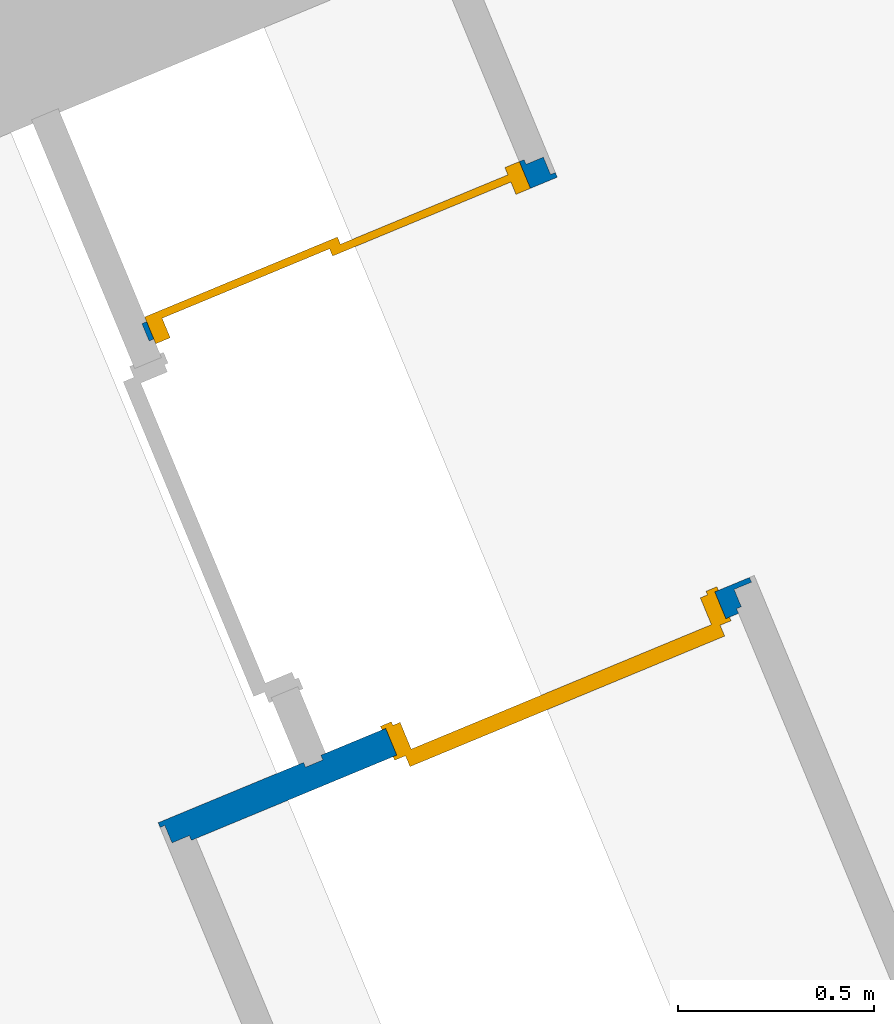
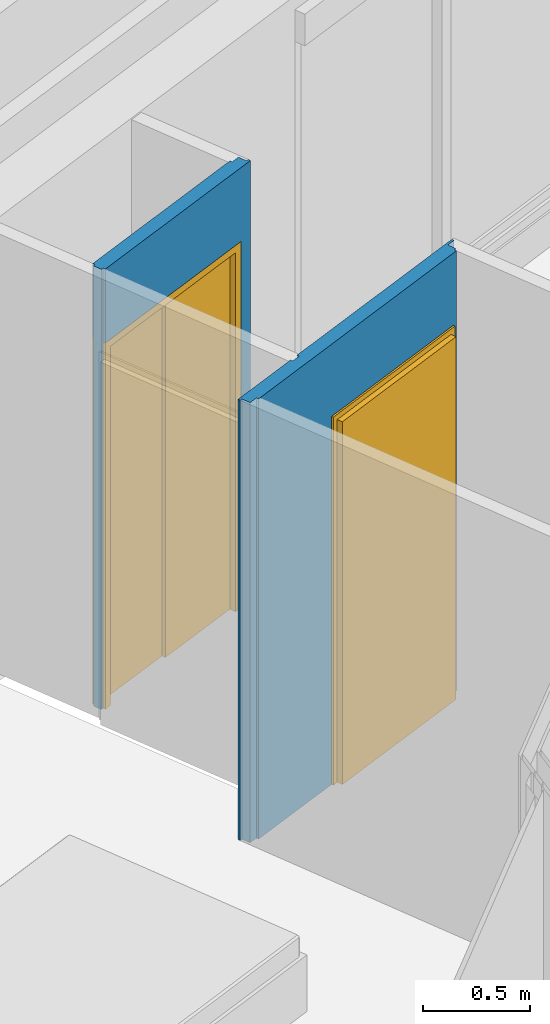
# One storey, part 13 of 119: 2 doors, 2 walls, 2 openings.
"""IFC2X3 building model written with IfcOpenShell, lengths in metres."""

from ifc_helpers import new_model, entity, si_unit, converted_unit, derived_unit, money_unit, direction, frame, origin_with_axes, place, context, subcontext, project, spatial, faceted_brep, source, transform, mapped, material, material_list, type_object, element, fill, save


model = new_model("IFC2X3")

# Units and contexts
model_context = context("Model", 3, precision=1e-05, world=origin_with_axes(), true_north=direction((0.0, 1.0)))
body_context = subcontext(model_context, "Body", "Model", "MODEL_VIEW")
ifc_project = project(units=[si_unit("LENGTHUNIT", "METRE"), si_unit("AREAUNIT", "SQUARE_METRE"), si_unit("VOLUMEUNIT", "CUBIC_METRE"), converted_unit("PLANEANGLEUNIT", "DEGREE", entity("IfcPlaneAngleMeasure", 0.0174532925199), si_unit("PLANEANGLEUNIT", "RADIAN"), dimensions=[0, 0, 0, 0, 0, 0, 0]), si_unit("SOLIDANGLEUNIT", "STERADIAN"), money_unit("EUR"), converted_unit("TIMEUNIT", "Year", entity("IfcTimeMeasure", 31556926.0), si_unit("TIMEUNIT", "SECOND"), dimensions=[0, 0, 1, 0, 0, 0, 0]), si_unit("MASSUNIT", "GRAM", prefix="KILO"), si_unit("THERMODYNAMICTEMPERATUREUNIT", "DEGREE_CELSIUS"), si_unit("LUMINOUSINTENSITYUNIT", "LUMEN"), si_unit("ENERGYUNIT", "JOULE", prefix="MEGA"), derived_unit("THERMALCONDUCTANCEUNIT", [(si_unit("POWERUNIT", "WATT"), 1), (si_unit("LENGTHUNIT", "METRE"), -1), (si_unit("THERMODYNAMICTEMPERATUREUNIT", "KELVIN"), -1)]), derived_unit("SPECIFICHEATCAPACITYUNIT", [(si_unit("ENERGYUNIT", "JOULE"), 1), (si_unit("MASSUNIT", "GRAM", prefix="KILO"), -1), (si_unit("THERMODYNAMICTEMPERATUREUNIT", "KELVIN"), -1)]), derived_unit("MASSDENSITYUNIT", [(si_unit("MASSUNIT", "GRAM", prefix="KILO"), 1), (si_unit("VOLUMEUNIT", "CUBIC_METRE"), -1)])], contexts=[model_context])

# Site, building, storey
site_placement = place(None, origin_with_axes())
site = spatial("IfcSite", under=ifc_project, at=site_placement, Name="Site", CompositionType="ELEMENT")
building_placement = place(site_placement, origin_with_axes())
building = spatial("IfcBuilding", under=site, at=building_placement, Name="Bâtiment", CompositionType="ELEMENT")
storey_placement = place(building_placement, origin_with_axes())
storey = spatial("IfcBuildingStorey", under=building, at=storey_placement, Name="Rez-de-chaussée", CompositionType="ELEMENT", Elevation=0.0)

# Wall, opening, door
ifc_material_1 = material(Name="Finition int - Plaque de plâtre")
ifc_material_2 = material(Name="Isolation - Laine de roche")
ifc_material_list = material_list([ifc_material_1, ifc_material_2, ifc_material_1])
wall_type = type_object("IfcWallType", Name="3 - Cloison 72mm Placostil 74", PredefinedType="USERDEFINED")
wall_1_placement = place(storey_placement, frame((-30.2305338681, -18.0864254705, 0.0), z_axis=(0.0, 0.0, 1.0), x_axis=(-0.92370167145, -0.383112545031, 0.0)))
wall_1 = element("IfcWall", 1, at=wall_1_placement, inside=storey, type_object=wall_type, material=ifc_material_list, Name="Cloison Placostil 72/48", ObjectType="PARTITIONING", context=body_context, shape_type="Brep", body=[
    faceted_brep([(0.945000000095, 0.074, 0.0), (0.945000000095, 0.074, 2.08), (0.035000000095, 0.074, 2.08), (0.035000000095, 0.074, 0.0), (2.49237075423e-10, 0.074, 0.0), (2.49237075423e-10, 0.074, 2.5), (1.5130000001, 0.074, 2.5), (1.5130000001, 0.074, 0.0), (0.945000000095, 0.061, 0.0), (0.945000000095, 0.061, 2.08), (0.035000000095, 0.061, 2.08), (0.035000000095, 0.061, 0.0), (2.43232989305e-10, 0.061, 0.0), (2.43232989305e-10, 0.061, 2.5), (1.5130000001, 0.061, 2.5), (1.5130000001, 0.061, 0.0)], [[[0, 1, 2, 3, 4, 5, 6, 7]], [[1, 0, 8, 9]], [[2, 1, 9, 10]], [[3, 2, 10, 11]], [[3, 11, 12, 4]], [[4, 12, 13, 5]], [[6, 5, 13, 14]], [[7, 6, 14, 15]], [[8, 0, 7, 15]], [[9, 8, 15, 14, 13, 12, 11, 10]]]),
    faceted_brep([(0.945000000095, 0.061, 0.0), (0.945000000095, 0.061, 2.08), (0.035000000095, 0.061, 2.08), (0.035000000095, 0.061, 0.0), (-0.0129999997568, 0.061, 0.0), (-0.0129999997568, 0.061, 2.5), (1.5610000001, 0.061, 2.5), (1.5610000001, 0.061, 0.0), (0.945000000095, 0.013, 0.0), (0.945000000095, 0.013, 2.08), (0.035000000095, 0.013, 2.08), (0.035000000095, 0.013, 0.0), (-0.0129999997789, 0.013, 0.0), (-0.0129999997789, 0.013, 2.5), (1.56100000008, 0.013, 2.5), (1.56100000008, 0.013, 0.0)], [[[0, 1, 2, 3, 4, 5, 6, 7]], [[1, 0, 8, 9]], [[2, 1, 9, 10]], [[3, 2, 10, 11]], [[3, 11, 12, 4]], [[4, 12, 13, 5]], [[6, 5, 13, 14]], [[7, 6, 14, 15]], [[8, 0, 7, 15]], [[9, 8, 15, 14, 13, 12, 11, 10]]]),
    faceted_brep([(1.57400000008, 0.013, 0.0), (1.57400000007, 0.0, 0.0), (1.17199999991, 0.0, 0.0), (1.17199999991, 0.013, 0.0), (1.57400000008, 0.013, 2.5), (1.57400000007, 0.0, 2.5), (1.17199999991, 0.0, 2.5), (1.17199999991, 0.013, 2.5)], [[[0, 1, 2, 3]], [[1, 0, 4, 5]], [[1, 5, 6, 2]], [[7, 3, 2, 6]], [[4, 0, 3, 7]], [[5, 4, 7, 6]]]),
    faceted_brep([(0.945000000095, 0.013, 0.0), (0.945000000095, 0.013, 2.08), (0.035000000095, 0.013, 2.08), (0.035000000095, 0.013, 0.0), (-0.0609999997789, 0.013, 0.0), (-0.0609999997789, 0.013, 2.5), (1.12399999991, 0.013, 2.5), (1.12399999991, 0.013, 0.0), (0.945000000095, 0.0, 0.0), (0.945000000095, 0.0, 2.08), (0.035000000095, 0.0, 2.08), (0.035000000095, 0.0, 0.0), (-0.0609999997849, 0.0, 0.0), (-0.0609999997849, 0.0, 2.5), (1.12399999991, 0.0, 2.5), (1.12399999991, 0.0, 0.0)], [[[0, 1, 2, 3, 4, 5, 6, 7]], [[1, 0, 8, 9]], [[2, 1, 9, 10]], [[3, 2, 10, 11]], [[3, 11, 12, 4]], [[4, 12, 13, 5]], [[6, 5, 13, 14]], [[7, 6, 14, 15]], [[8, 0, 7, 15]], [[9, 8, 15, 14, 13, 12, 11, 10]]]),
])
opening_1_placement = place(wall_1_placement, frame((0.490000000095, 0.0, 0.0), z_axis=(0.0, 0.0, 1.0), x_axis=(1.0, 0.0, 0.0)))
opening_1 = element("IfcOpeningElement", 2, at=opening_1_placement, cuts=wall_1, Name="Porte 83x204 bois alvéolaire", context=body_context, shape_type="Brep", body=[
    faceted_brep([(-0.455, 0.074, 0.0), (0.455, 0.074, 0.0), (0.455, -0.074, 0.0), (-0.455, -0.074, 0.0), (-0.455, 0.074, 2.08), (0.455, 0.074, 2.08), (0.455, -0.074, 2.08), (-0.455, -0.074, 2.08)], [[[0, 1, 2, 3]], [[0, 4, 5, 1]], [[1, 5, 6, 2]], [[3, 2, 6, 7]], [[4, 0, 3, 7]], [[5, 4, 7, 6]]]),
])
door_style_1 = type_object("IfcDoorStyle", Name="Porte int générique 2019", ConstructionType="NOTDEFINED", OperationType="SINGLE_SWING_LEFT", ParameterTakesPrecedence=False, Sizeable=False)
shared_shape_1 = source(origin_with_axes(), body_context, "Body", "Brep", [
    faceted_brep([(-0.455, -0.006, 0.0), (-0.455, -0.006, 2.08), (0.455, -0.006, 2.08), (0.455, -0.006, 0.0), (0.415, -0.006, 0.0), (0.415, -0.006, 2.04), (-0.415, -0.006, 2.04), (-0.415, -0.006, 0.0), (-0.455, -0.08, 0.0), (-0.455, -0.08, 2.08), (0.455, -0.08, 2.08), (0.455, -0.08, 0.0), (0.415, -0.08, 0.0), (0.415, -0.08, 2.04), (-0.415, -0.08, 2.04), (-0.415, -0.08, 0.0)], [[[0, 1, 2, 3, 4, 5, 6, 7]], [[8, 9, 1, 0]], [[9, 10, 2, 1]], [[10, 11, 3, 2]], [[3, 11, 12, 4]], [[5, 4, 12, 13]], [[6, 5, 13, 14]], [[7, 6, 14, 15]], [[0, 7, 15, 8]], [[15, 14, 13, 12, 11, 10, 9, 8]]]),
    faceted_brep([(-0.465, -0.006, 0.0), (-0.465, -0.006, 2.09), (-0.465, 0.004, 2.09), (-0.465, 0.004, 0.0), (-0.435, -0.006, 0.0), (-0.435, -0.006, 2.06), (0.435, -0.006, 2.06), (0.435, -0.006, 0.0), (0.465, -0.006, 0.0), (0.465, -0.006, 2.09), (0.465, 0.004, 2.09), (0.465, 0.004, 0.0), (0.435, 0.004, 0.0), (0.435, 0.004, 2.06), (-0.435, 0.004, 2.06), (-0.435, 0.004, 0.0)], [[[0, 1, 2, 3]], [[4, 5, 6, 7, 8, 9, 1, 0]], [[1, 9, 10, 2]], [[3, 2, 10, 11, 12, 13, 14, 15]], [[0, 3, 15, 4]], [[15, 14, 5, 4]], [[14, 13, 6, 5]], [[13, 12, 7, 6]], [[8, 7, 12, 11]], [[9, 8, 11, 10]]]),
    faceted_brep([(-0.465, -0.09, 0.0), (-0.465, -0.09, 2.09), (-0.465, -0.08, 2.09), (-0.465, -0.08, 0.0), (-0.435, -0.09, 0.0), (-0.435, -0.09, 2.06), (0.435, -0.09, 2.06), (0.435, -0.09, 0.0), (0.465, -0.09, 0.0), (0.465, -0.09, 2.09), (0.465, -0.08, 2.09), (0.465, -0.08, 0.0), (0.435, -0.08, 0.0), (0.435, -0.08, 2.06), (-0.435, -0.08, 2.06), (-0.435, -0.08, 0.0)], [[[0, 1, 2, 3]], [[4, 5, 6, 7, 8, 9, 1, 0]], [[1, 9, 10, 2]], [[3, 2, 10, 11, 12, 13, 14, 15]], [[0, 3, 15, 4]], [[15, 14, 5, 4]], [[14, 13, 6, 5]], [[13, 12, 7, 6]], [[8, 7, 12, 11]], [[9, 8, 11, 10]]]),
    faceted_brep([(-0.435, 0.034, 0.0), (0.435, 0.034, 0.0), (0.435, -0.006, 0.0), (-0.435, -0.006, 0.0), (-0.435, 0.034, 2.06), (0.435, 0.034, 2.06), (0.435, -0.006, 2.06), (-0.435, -0.006, 2.06)], [[[0, 1, 2, 3]], [[0, 4, 5, 1]], [[1, 5, 6, 2]], [[3, 2, 6, 7]], [[4, 0, 3, 7]], [[5, 4, 7, 6]]]),
])
door_1_placement = place(opening_1_placement, frame((-0.415, 0.0, 0.0), z_axis=(0.0, 0.0, 1.0), x_axis=(1.0, 0.0, 0.0)))
door_1 = element("IfcDoor", 3, at=door_1_placement, inside=storey, type_object=door_style_1, Name="Porte 83x204 bois alvéolaire", ObjectType="DOOR", OverallHeight=2.04, OverallWidth=0.83, context=body_context, shape_type="MappedRepresentation", body=[
    mapped(shared_shape_1, transform((0.415, 0.08, 0.0))),
])
fill(opening_1, door_1)

wall_2_placement = place(storey_placement, frame((-31.7589092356, -17.4945292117, 0.0), z_axis=(0.0, 0.0, 1.0), x_axis=(0.923701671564, 0.383112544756, 0.0)))
wall_2 = element("IfcWall", 4, at=wall_2_placement, inside=storey, type_object=wall_type, material=ifc_material_list, Name="Cloison Placostil 72/48", ObjectType="PARTITIONING", context=body_context, shape_type="Brep", body=[
    faceted_brep([(1.10999999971, 0.061, 2.08), (1.10999999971, 0.061, 0.0), (1.12299999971, 0.061, 0.0), (1.12299999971, 0.061, 2.5), (0.0739999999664, 0.061, 2.5), (0.0739999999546, 0.061, 2.08), (1.10999999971, 0.074, 2.08), (1.10999999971, 0.074, 0.0), (1.12299999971, 0.074, 0.0), (1.12299999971, 0.074, 2.5), (0.0739999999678, 0.074, 2.5), (0.0739999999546, 0.074, 2.08)], [[[0, 1, 2, 3, 4, 5]], [[1, 0, 6, 7]], [[1, 7, 8, 2]], [[8, 9, 3, 2]], [[9, 10, 4, 3]], [[11, 5, 4, 10]], [[0, 5, 11, 6]], [[6, 11, 10, 9, 8, 7]]]),
    faceted_brep([(0.0739999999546, 0.013, 0.0), (0.0739999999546, 0.013, 2.08), (1.10999999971, 0.013, 2.08), (1.10999999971, 0.013, 0.0), (1.1709999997, 0.013, 0.0), (1.1709999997, 0.013, 2.5), (0.0609999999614, 0.013, 2.5), (0.0609999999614, 0.013, 0.0), (0.0739999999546, 0.061, 0.0), (0.0739999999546, 0.061, 2.08), (1.10999999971, 0.061, 2.08), (1.10999999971, 0.061, 0.0), (1.17099999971, 0.061, 0.0), (1.17099999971, 0.061, 2.5), (0.0609999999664, 0.061, 2.5), (0.0609999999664, 0.061, 0.0)], [[[0, 1, 2, 3, 4, 5, 6, 7]], [[1, 0, 8, 9]], [[2, 1, 9, 10]], [[3, 2, 10, 11]], [[3, 11, 12, 4]], [[12, 13, 5, 4]], [[13, 14, 6, 5]], [[15, 7, 6, 14]], [[8, 0, 7, 15]], [[9, 8, 15, 14, 13, 12, 11, 10]]]),
    faceted_brep([(1.10999999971, 0.0, 2.08), (1.10999999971, 0.0, 0.0), (1.1839999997, 0.0, 0.0), (1.1839999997, 0.0, 2.5), (0.0739999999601, 0.0, 2.5), (0.0739999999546, 0.0, 2.08), (1.10999999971, 0.013, 2.08), (1.10999999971, 0.013, 0.0), (1.1839999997, 0.013, 0.0), (1.1839999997, 0.013, 2.5), (0.0739999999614, 0.013, 2.5), (0.0739999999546, 0.013, 2.08)], [[[0, 1, 2, 3, 4, 5]], [[1, 0, 6, 7]], [[1, 7, 8, 2]], [[8, 9, 3, 2]], [[9, 10, 4, 3]], [[11, 5, 4, 10]], [[0, 5, 11, 6]], [[6, 11, 10, 9, 8, 7]]]),
])
opening_2_placement = place(wall_2_placement, frame((0.59199999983, 0.0, 0.0), z_axis=(0.0, 0.0, 1.0), x_axis=(1.0, 0.0, 0.0)))
opening_2 = element("IfcOpeningElement", 5, at=opening_2_placement, cuts=wall_2, Name="Por-002", context=body_context, shape_type="Brep", body=[
    faceted_brep([(-0.517999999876, 0.074, 0.0), (0.517999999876, 0.074, 0.0), (0.517999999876, -0.074, 0.0), (-0.517999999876, -0.074, 0.0), (-0.517999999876, 0.074, 2.08), (0.517999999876, 0.074, 2.08), (0.517999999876, -0.074, 2.08), (-0.517999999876, -0.074, 2.08)], [[[0, 1, 2, 3]], [[0, 4, 5, 1]], [[1, 5, 6, 2]], [[3, 2, 6, 7]], [[4, 0, 3, 7]], [[5, 4, 7, 6]]]),
])
door_style_2 = type_object("IfcDoorStyle", Name="Porte int générique 2019", ConstructionType="NOTDEFINED", OperationType="USERDEFINED", ParameterTakesPrecedence=False, Sizeable=False)
shared_shape_2 = source(origin_with_axes(), body_context, "Body", "Brep", [
    faceted_brep([(-0.517999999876, 0.0, 0.0), (-0.517999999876, 0.0, 2.08), (0.517999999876, 0.0, 2.08), (0.517999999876, 0.0, 0.0), (0.477999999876, 0.0, 0.0), (0.477999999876, 0.0, 2.04), (-0.477999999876, 0.0, 2.04), (-0.477999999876, 0.0, 0.0), (-0.517999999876, -0.074, 0.0), (-0.517999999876, -0.074, 2.08), (0.517999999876, -0.074, 2.08), (0.517999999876, -0.074, 0.0), (0.477999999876, -0.074, 0.0), (0.477999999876, -0.074, 2.04), (-0.477999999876, -0.074, 2.04), (-0.477999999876, -0.074, 0.0)], [[[0, 1, 2, 3, 4, 5, 6, 7]], [[8, 9, 1, 0]], [[9, 10, 2, 1]], [[10, 11, 3, 2]], [[3, 11, 12, 4]], [[5, 4, 12, 13]], [[6, 5, 13, 14]], [[7, 6, 14, 15]], [[0, 7, 15, 8]], [[15, 14, 13, 12, 11, 10, 9, 8]]]),
    faceted_brep([(-0.477999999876, 0.0, 0.0), (0.015, 0.0, 0.0), (0.015, -0.02, 0.0), (-0.477999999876, -0.02, 0.0), (-0.477999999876, 0.0, 2.04), (0.015, 0.0, 2.04), (0.015, -0.02, 2.04), (-0.477999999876, -0.02, 2.04)], [[[0, 1, 2, 3]], [[0, 4, 5, 1]], [[1, 5, 6, 2]], [[3, 2, 6, 7]], [[4, 0, 3, 7]], [[5, 4, 7, 6]]]),
    faceted_brep([(-0.015, -0.02, 0.0), (0.477999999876, -0.02, 0.0), (0.477999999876, -0.04, 0.0), (-0.015, -0.04, 0.0), (-0.015, -0.02, 2.04), (0.477999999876, -0.02, 2.04), (0.477999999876, -0.04, 2.04), (-0.015, -0.04, 2.04)], [[[0, 1, 2, 3]], [[0, 4, 5, 1]], [[1, 5, 6, 2]], [[3, 2, 6, 7]], [[4, 0, 3, 7]], [[5, 4, 7, 6]]]),
])
door_2_placement = place(opening_2_placement, frame((-0.477999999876, 0.0, 0.0), z_axis=(0.0, 0.0, 1.0), x_axis=(1.0, 0.0, 0.0)))
door_2 = element("IfcDoor", 6, at=door_2_placement, inside=storey, type_object=door_style_2, Name="Por-002", ObjectType="DOOR", OverallHeight=2.04, OverallWidth=0.956, context=body_context, shape_type="MappedRepresentation", body=[
    mapped(shared_shape_2, transform((0.477999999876, 0.074, 0.0))),
])
fill(opening_2, door_2)

save(model, "model.ifc")
